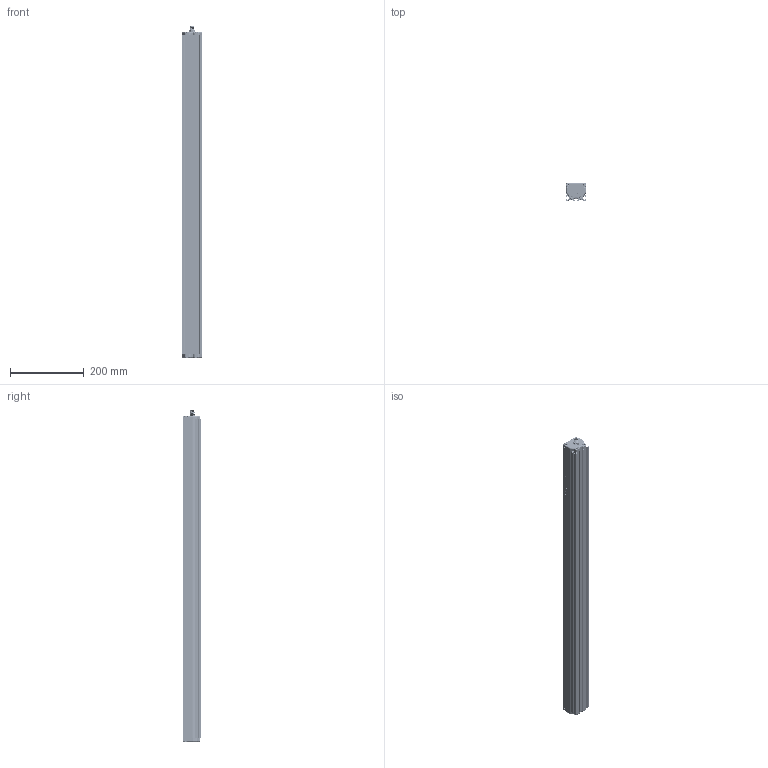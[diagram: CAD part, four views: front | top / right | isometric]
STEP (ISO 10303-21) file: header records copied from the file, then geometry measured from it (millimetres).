
FILE_DESCRIPTION (( 'STEP AP214' ), '1' );
FILE_NAME ('LSR 900.STEP', '2022-02-03T12:03:47', ( '' ), ( '' ), 'SwSTEP 2.0', 'SolidWorks 2021', '' );
FILE_SCHEMA (( 'AUTOMOTIVE_DESIGN' ));
Length unit declared in the file: millimetre
Products named in the file (37): WHITE WIRE; SPLICE HEATSHRINK; BLUE WIRE; GRAY WIRE; LSR 900; GASKET 2; BLACK WIRE; _T-1S6-09-TSW-1-15-2-D; LTF EXT0250 REV 14_LTF 866; END CAP CONN ASY; LTF END CAP GASKET; CBL0080; M12_Male - Long; LSR SINGLE ROW LED BOARD; BROWN WIRE; END CAP ASY; JST-xH 7pin Female; CREE PLCC8-CLQ6A; BROWN SHORT WIRE; LEDil TINA JB 4-7-2020 ; HSG0204 LSR END CAP NON-CONN; SOLDER PAD; HSG0205 LSR END CAP CONN; BLUE SHORT WIRE; 68021-x10; (6-32 - 1_2 THREAD FORMING) (SC0136) 94209A520_THREAD-FORMING SCREW FOR SOFT METAL_94209A520; SSW_105_02_T_D_RA_5; 4 PIN CONNECTOR; GASKET 2_900; LTF DRIVER BOARD ASY; SSW_105_02_T_D_RA_3; _TSW-102-15-S-D_body; LTF DRIVER BOARD; S7B-XH-A-1.step; LSR LED BRD SINGLE ROW ASY; LTF CLEAR LENS COVER_866; SSW_105_02_T_D_RA
Assembly tree (66 placements, depth 4):
  LSR 900
    LTF EXT0250 REV 14_LTF 866
    LTF DRIVER BOARD ASY  x3
      LTF DRIVER BOARD
      SSW_105_02_T_D_RA
        SSW_105_02_T_D_RA_3
        SSW_105_02_T_D_RA_5
      68021-x10
      S7B-XH-A-1.step
      4 PIN CONNECTOR
        _TSW-102-15-S-D_body
        _T-1S6-09-TSW-1-15-2-D
        SOLDER PAD
      CREE PLCC8-CLQ6A
    LSR LED BRD SINGLE ROW ASY  x3
      LSR SINGLE ROW LED BOARD
      LEDil TINA JB 4-7-2020 
    LTF CLEAR LENS COVER_866
    GASKET 2_900
    GASKET 2
    END CAP CONN ASY
      HSG0205 LSR END CAP CONN
      CBL0080
        GRAY WIRE
        BLACK WIRE
        WHITE WIRE
        JST-xH 7pin Female
        M12_Male - Long
        BLUE SHORT WIRE
        BROWN SHORT WIRE
        BLUE WIRE  x2
        BROWN WIRE  x2
        SPLICE HEATSHRINK  x2
      LTF END CAP GASKET
    END CAP ASY
      HSG0204 LSR END CAP NON-CONN
      LTF END CAP GASKET
    (6-32 - 1_2 THREAD FORMING) (SC0136) 94209A520_THREAD-FORMING SCREW FOR SOFT METAL_94209A520  x8
Bounding box: 54.2 x 50 x 901.2 mm (x, y, z)
Volume: 901004.1 mm3; surface area: 769728.7 mm2
Topology: 182 solids, 276 shells, 21334 faces, 55752 edges, 34652 vertices
Faces by surface type: bspline 8550, plane 5967, cylinder 5089, cone 1654, torus 66, sphere 8
Entity records: 150242 total; most frequent: CARTESIAN_POINT 68596, ORIENTED_EDGE 17204, DIRECTION 12798, EDGE_CURVE 8622, VERTEX_POINT 5592, VECTOR 4566, LINE 4566, AXIS2_PLACEMENT_3D 4116
